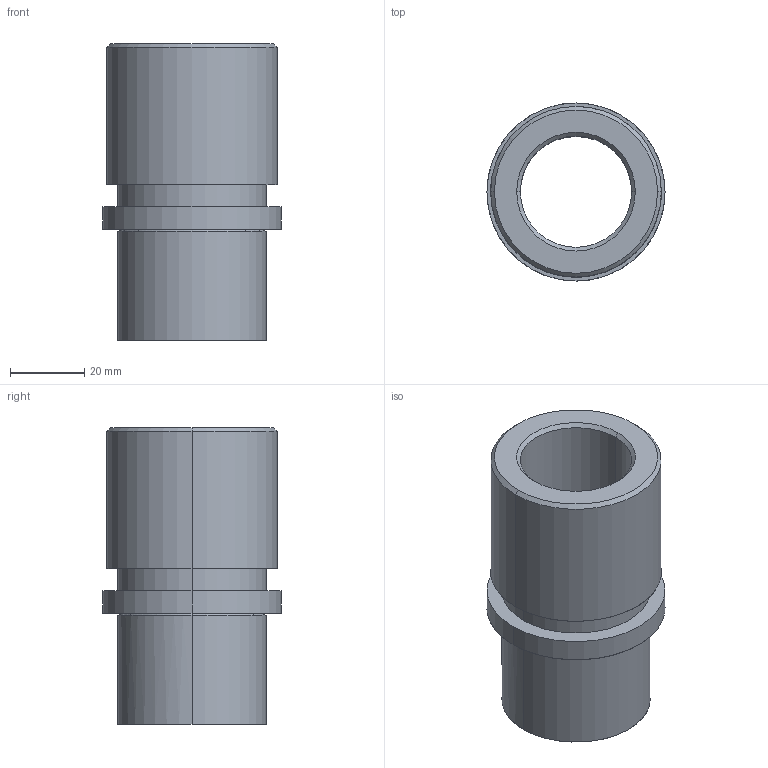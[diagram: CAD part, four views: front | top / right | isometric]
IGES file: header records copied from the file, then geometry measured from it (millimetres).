
Start section: START RECORD GO HERE.
Global section: file name: 734-24.igs; native system: DASSAULT SYSTEMES CATIA V5 R20 - www.3ds.com; preprocessor: CATIA Version 5 Release 20 ; author: Utente; organization: NB04-ASUS; date: 20210116.200745; units: millimetre
Bounding box: 48 x 48 x 80 mm (x, y, z)
Surface area: 21483.3 mm2 (no closed solid volume)
Topology: 0 solids, 0 shells, 25 faces, 100 edges, 100 vertices
Faces by surface type: revolution 20, plane 5
